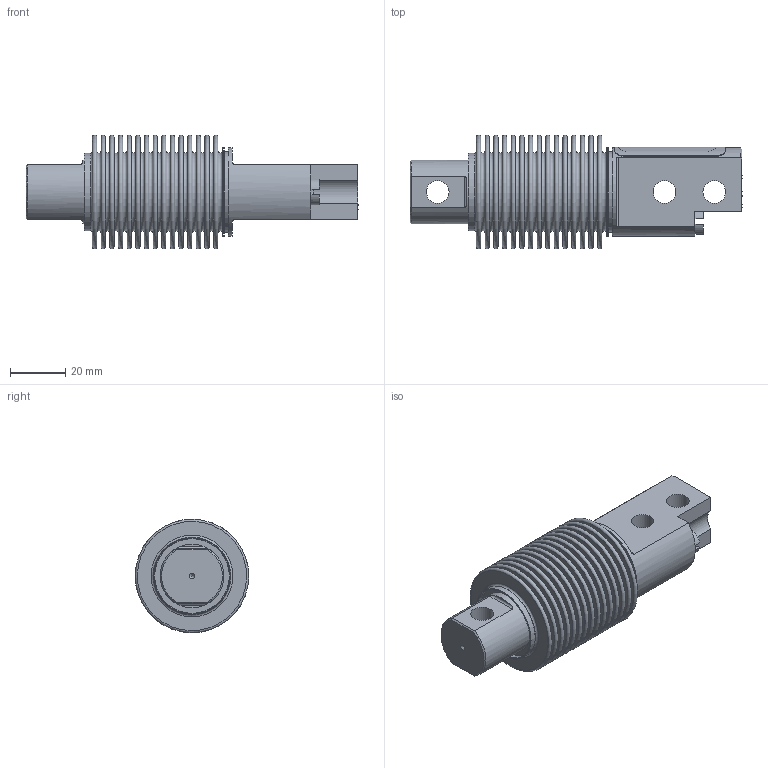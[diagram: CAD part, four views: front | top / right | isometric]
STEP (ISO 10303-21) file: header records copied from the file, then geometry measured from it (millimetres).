
FILE_DESCRIPTION (( 'STEP AP214' ), '1' );
FILE_NAME ('Load_Sensor_HIHBB01_22LB-550LB.STEP', '2024-10-21T21:11:25', ( '' ), ( '' ), 'SwSTEP 2.0', 'SolidWorks 2023', '' );
FILE_SCHEMA (( 'AUTOMOTIVE_DESIGN' ));
Length unit declared in the file: millimetre
Products named in the file (8): 0010336; 0010335; 0010333; 0010169; 0010378; Load_Sensor_HIHBB01_22LB-550LB; 0010339; 0010379
Assembly tree (7 placements, depth 2):
  Load_Sensor_HIHBB01_22LB-550LB
    0010169
    0010333
    0010339
    0010335
    0010378
    0010379
    0010336
Bounding box: 120 x 41.06 x 41.06 mm (x, y, z)
Volume: 36777.5 mm3; surface area: 66443.6 mm2
Topology: 7 solids, 7 shells, 546 faces, 1136 edges, 746 vertices
Faces by surface type: plane 276, cylinder 120, torus 68, bspline 63, cone 19
Full cylindrical faces by diameter (mm): 0.5 x64, 2 x1, 3 x1, 4.5 x1, 5 x1, 5.8 x1, 6.1 x1, 6.5 x1, 8 x1, 8.2 x4, 8.529 x1, 9.5 x1, 23 x1, 26 x1, 27 x1, 27.5 x1, 27.6 x1, 27.71 x1, 28.01 x1, 29 x1, 32 x3
Entity records: 17982 total; most frequent: CARTESIAN_POINT 6826, DIRECTION 2149, ORIENTED_EDGE 1922, EDGE_CURVE 961, AXIS2_PLACEMENT_3D 879, EDGE_LOOP 871, VERTEX_POINT 734, FACE_OUTER_BOUND 698
